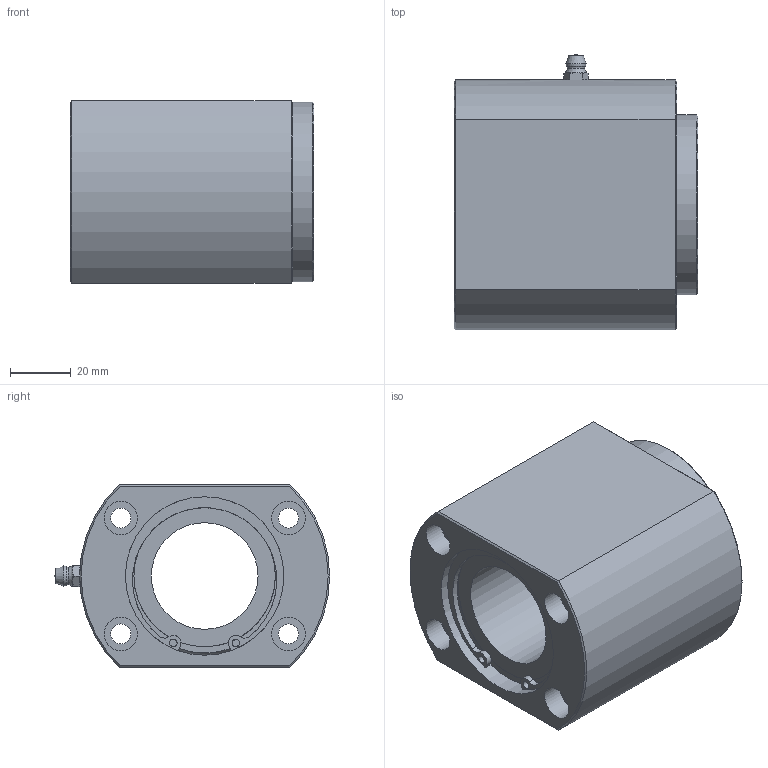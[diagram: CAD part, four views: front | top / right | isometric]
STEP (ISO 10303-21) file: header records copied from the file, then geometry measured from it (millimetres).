
FILE_DESCRIPTION((''),'2;1');
FILE_NAME('D:\製品 (図面)\カタログ用3D\リニアベアリング関連(改)\STEP形式\CTB\CTB35.stp','2010-01-25T09:48:55',('Tsuchiya'),(''),'Autodesk Inventor 10','Autodesk Inventor 10','');
FILE_SCHEMA(('AUTOMOTIVE_DESIGN { 1 0 10303 214 1 1 1 1 }'));
Length unit declared in the file: millimetre
Products named in the file (1): CTB35
Bounding box: 80 x 90.3 x 60 mm (x, y, z)
Volume: 243036.8 mm3; surface area: 45384.1 mm2
Topology: 1 solids, 3 shells, 104 faces, 275 edges, 167 vertices
Faces by surface type: plane 45, cylinder 27, bspline 16, cone 12, sphere 2, torus 2
Full cylindrical faces by diameter (mm): 2.5 x2, 6.6 x4, 11 x4, 35 x1, 46.4 x2, 49 x2, 52 x4, 59 x1
Entity records: 3114 total; most frequent: CARTESIAN_POINT 729, DIRECTION 528, ORIENTED_EDGE 440, AXIS2_PLACEMENT_3D 239, EDGE_CURVE 220, EDGE_LOOP 162, VERTEX_POINT 146, CIRCLE 146
